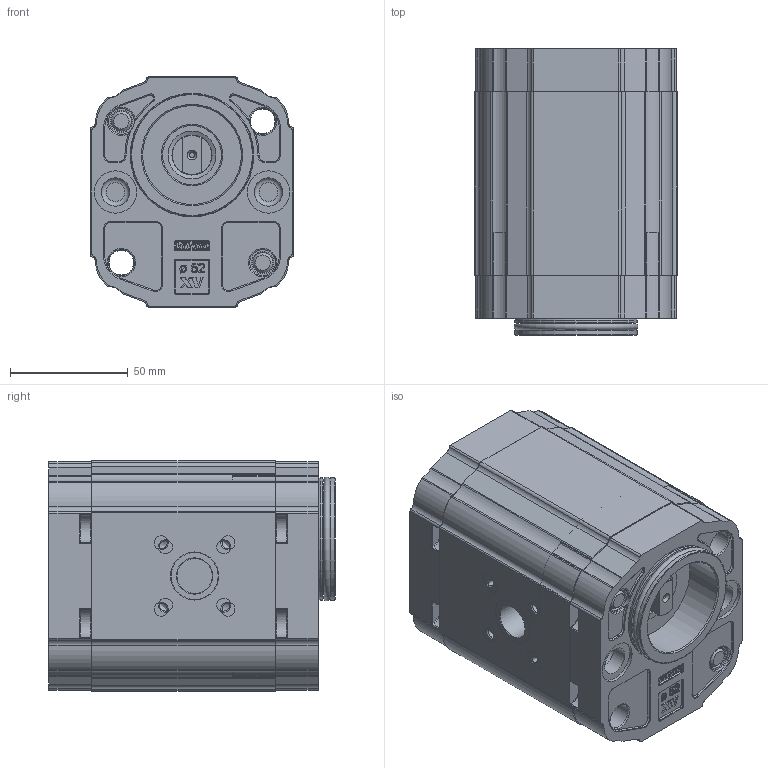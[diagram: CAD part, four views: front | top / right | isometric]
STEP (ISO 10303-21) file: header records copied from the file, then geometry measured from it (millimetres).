
FILE_DESCRIPTION( ( 'Unknown' ), '1' );
FILE_NAME( 'P:/montaggio_easy/output/STP/X2T5531CSRD.stp', 'Unknown', ( 'Unknown' ), ( 'Unknown' ), 'PSStep 14.0', 'Unknown', ' ' );
FILE_SCHEMA( ( 'AUTOMOTIVE_DESIGN { 1 0 10303 214 1 1 1 1 }' ) );
Length unit declared in the file: millimetre
Products named in the file (5): Assem1; X2T31; 2C; X2SRH78; XT216-D
Bounding box: 86 x 121.6 x 98 mm (x, y, z)
Surface area: 219618.9 mm2
Topology: 8 solids, 10 shells, 2100 faces, 5484 edges, 3530 vertices
Faces by surface type: plane 748, cylinder 722, extrusion 266, torus 206, cone 94, bspline 64
Full cylindrical faces by diameter (mm): 2 x2, 4 x2, 5 x16, 10.5 x8, 11 x16, 12 x8, 12.5 x2, 15 x2, 16.8 x2, 17.42 x2, 18 x8, 20 x2, 23 x2, 25 x4, 32.5 x2, 36.5 x2, 42 x2, 47.8 x4, 52 x4
Entity records: 43516 total; most frequent: CARTESIAN_POINT 9913, ORIENTED_EDGE 5182, DIRECTION 5099, EDGE_CURVE 2591, AXIS2_PLACEMENT_3D 1825, VERTEX_POINT 1721, VECTOR 1449, LINE 1316
